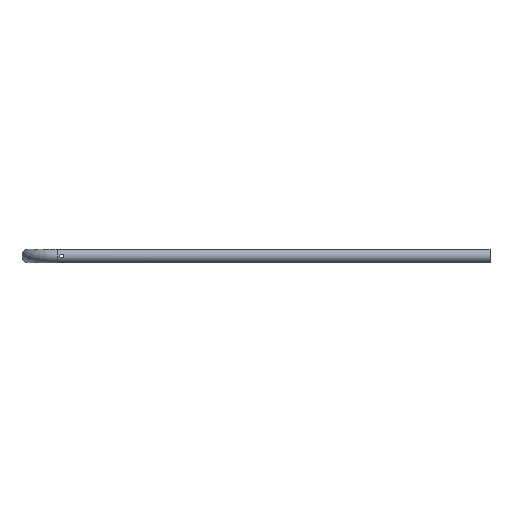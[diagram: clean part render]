
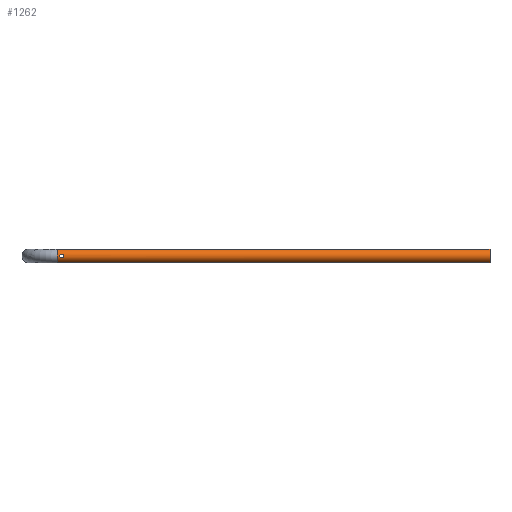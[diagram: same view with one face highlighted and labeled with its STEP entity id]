
A CAD part, left-side view. The second image highlights one B-rep face of the part: STEP entity #1262.
In plain terms, the highlighted cylindrical face has radius 21.2 mm (diameter 42.4 mm), a full revolution.
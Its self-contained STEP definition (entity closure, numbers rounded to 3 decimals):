
#153=CARTESIAN_POINT('',(20.474,1001.2,-5.5));
#154=VERTEX_POINT('',#153);
#155=CARTESIAN_POINT('',(20.474,1001.2,-5.5));
#156=CARTESIAN_POINT('',(20.474,1000.506,-5.5));
#157=CARTESIAN_POINT('',(20.513,999.768,-5.361));
#158=CARTESIAN_POINT('',(20.652,998.414,-4.798));
#159=CARTESIAN_POINT('',(20.749,997.797,-4.376));
#160=CARTESIAN_POINT('',(20.931,996.824,-3.403));
#161=CARTESIAN_POINT('',(21.027,996.402,-2.786));
#162=CARTESIAN_POINT('',(21.163,995.839,-1.432));
#163=CARTESIAN_POINT('',(21.2,995.7,-0.694));
#164=CARTESIAN_POINT('',(21.2,995.7,0.694));
#165=CARTESIAN_POINT('',(21.163,995.839,1.432));
#166=CARTESIAN_POINT('',(21.027,996.402,2.786));
#167=CARTESIAN_POINT('',(20.931,996.824,3.403));
#168=CARTESIAN_POINT('',(20.749,997.797,4.376));
#169=CARTESIAN_POINT('',(20.652,998.414,4.798));
#170=CARTESIAN_POINT('',(20.513,999.768,5.361));
#171=CARTESIAN_POINT('',(20.474,1000.506,5.5));
#172=CARTESIAN_POINT('',(20.474,1001.894,5.5));
#173=CARTESIAN_POINT('',(20.513,1002.632,5.361));
#174=CARTESIAN_POINT('',(20.652,1003.986,4.798));
#175=CARTESIAN_POINT('',(20.749,1004.603,4.376));
#176=CARTESIAN_POINT('',(20.931,1005.576,3.403));
#177=CARTESIAN_POINT('',(21.027,1005.998,2.786));
#178=CARTESIAN_POINT('',(21.163,1006.561,1.432));
#179=CARTESIAN_POINT('',(21.2,1006.7,0.694));
#180=CARTESIAN_POINT('',(21.2,1006.7,-0.694));
#181=CARTESIAN_POINT('',(21.163,1006.561,-1.432));
#182=CARTESIAN_POINT('',(21.027,1005.998,-2.786));
#183=CARTESIAN_POINT('',(20.931,1005.576,-3.403));
#184=CARTESIAN_POINT('',(20.749,1004.603,-4.376));
#185=CARTESIAN_POINT('',(20.652,1003.986,-4.798));
#186=CARTESIAN_POINT('',(20.513,1002.632,-5.361));
#187=CARTESIAN_POINT('',(20.474,1001.894,-5.5));
#188=CARTESIAN_POINT('',(20.474,1001.2,-5.5));
#189=B_SPLINE_CURVE_WITH_KNOTS('',3,(#155,#156,#157,#158,#159,#160,#161,#162,#163,#164,#165,#166,#167,#168,#169,#170,#171,#172,#173,#174,#175,#176,#177,#178,#179,#180,#181,#182,#183,#184,#185,#186,#187,#188),.UNSPECIFIED.,.T.,.U.,(4,2,2,2,2,2,2,2,2,2,2,2,2,2,2,2,4),(0.0,0.208,0.416,0.625,0.833,1.041,1.249,1.457,1.666,1.874,2.082,2.29,2.498,2.707,2.915,3.123,3.331),.UNSPECIFIED.);
#190=EDGE_CURVE('',#154,#154,#189,.T.);
#241=CARTESIAN_POINT('',(-20.474,1001.2,-5.5));
#242=VERTEX_POINT('',#241);
#243=CARTESIAN_POINT('',(-20.474,1001.2,-5.5));
#244=CARTESIAN_POINT('',(-20.474,1001.894,-5.5));
#245=CARTESIAN_POINT('',(-20.513,1002.632,-5.361));
#246=CARTESIAN_POINT('',(-20.652,1003.986,-4.798));
#247=CARTESIAN_POINT('',(-20.749,1004.603,-4.376));
#248=CARTESIAN_POINT('',(-20.931,1005.576,-3.403));
#249=CARTESIAN_POINT('',(-21.027,1005.998,-2.786));
#250=CARTESIAN_POINT('',(-21.163,1006.561,-1.432));
#251=CARTESIAN_POINT('',(-21.2,1006.7,-0.694));
#252=CARTESIAN_POINT('',(-21.2,1006.7,0.694));
#253=CARTESIAN_POINT('',(-21.163,1006.561,1.432));
#254=CARTESIAN_POINT('',(-21.027,1005.998,2.786));
#255=CARTESIAN_POINT('',(-20.931,1005.576,3.403));
#256=CARTESIAN_POINT('',(-20.749,1004.603,4.376));
#257=CARTESIAN_POINT('',(-20.652,1003.986,4.798));
#258=CARTESIAN_POINT('',(-20.513,1002.632,5.361));
#259=CARTESIAN_POINT('',(-20.474,1001.894,5.5));
#260=CARTESIAN_POINT('',(-20.474,1000.506,5.5));
#261=CARTESIAN_POINT('',(-20.513,999.768,5.361));
#262=CARTESIAN_POINT('',(-20.652,998.414,4.798));
#263=CARTESIAN_POINT('',(-20.749,997.797,4.376));
#264=CARTESIAN_POINT('',(-20.931,996.824,3.403));
#265=CARTESIAN_POINT('',(-21.027,996.402,2.786));
#266=CARTESIAN_POINT('',(-21.163,995.839,1.432));
#267=CARTESIAN_POINT('',(-21.2,995.7,0.694));
#268=CARTESIAN_POINT('',(-21.2,995.7,-0.694));
#269=CARTESIAN_POINT('',(-21.163,995.839,-1.432));
#270=CARTESIAN_POINT('',(-21.027,996.402,-2.786));
#271=CARTESIAN_POINT('',(-20.931,996.824,-3.403));
#272=CARTESIAN_POINT('',(-20.749,997.797,-4.376));
#273=CARTESIAN_POINT('',(-20.652,998.414,-4.798));
#274=CARTESIAN_POINT('',(-20.513,999.768,-5.361));
#275=CARTESIAN_POINT('',(-20.474,1000.506,-5.5));
#276=CARTESIAN_POINT('',(-20.474,1001.2,-5.5));
#277=B_SPLINE_CURVE_WITH_KNOTS('',3,(#243,#244,#245,#246,#247,#248,#249,#250,#251,#252,#253,#254,#255,#256,#257,#258,#259,#260,#261,#262,#263,#264,#265,#266,#267,#268,#269,#270,#271,#272,#273,#274,#275,#276),.UNSPECIFIED.,.T.,.U.,(4,2,2,2,2,2,2,2,2,2,2,2,2,2,2,2,4),(0.0,0.208,0.416,0.625,0.833,1.041,1.249,1.457,1.666,1.874,2.082,2.29,2.498,2.707,2.915,3.123,3.331),.UNSPECIFIED.);
#278=EDGE_CURVE('',#242,#242,#277,.T.);
#1225=CARTESIAN_POINT('',(-21.2,1013.5,0.));
#1226=VERTEX_POINT('',#1225);
#1227=CARTESIAN_POINT('',(0.0,1013.5,0.0));
#1228=DIRECTION('',(0.0,-1.0,0.0));
#1229=DIRECTION('',(1.0,0.0,0.0));
#1230=AXIS2_PLACEMENT_3D('',#1227,#1228,#1229);
#1231=CIRCLE('',#1230,21.2);
#1232=EDGE_CURVE('',#1226,#1226,#1231,.T.);
#1237=CARTESIAN_POINT('',(0.0,-300.,0.0));
#1238=DIRECTION('',(0.0,1.0,0.0));
#1239=DIRECTION('',(1.0,0.0,0.0));
#1240=AXIS2_PLACEMENT_3D('',#1237,#1238,#1239);
#1241=CYLINDRICAL_SURFACE('',#1240,21.2);
#1242=ORIENTED_EDGE('',*,*,#1232,.T.);
#1243=EDGE_LOOP('',(#1242));
#1244=FACE_OUTER_BOUND('',#1243,.T.);
#1245=ORIENTED_EDGE('',*,*,#190,.T.);
#1246=EDGE_LOOP('',(#1245));
#1247=FACE_BOUND('',#1246,.T.);
#1248=ORIENTED_EDGE('',*,*,#278,.T.);
#1249=EDGE_LOOP('',(#1248));
#1250=FACE_BOUND('',#1249,.T.);
#1251=CARTESIAN_POINT('',(-21.2,-300.,0.));
#1252=VERTEX_POINT('',#1251);
#1253=CARTESIAN_POINT('',(0.0,-300.,0.0));
#1254=DIRECTION('',(0.0,-1.0,0.0));
#1255=DIRECTION('',(1.0,0.0,0.0));
#1256=AXIS2_PLACEMENT_3D('',#1253,#1254,#1255);
#1257=CIRCLE('',#1256,21.2);
#1258=EDGE_CURVE('',#1252,#1252,#1257,.T.);
#1259=ORIENTED_EDGE('',*,*,#1258,.F.);
#1260=EDGE_LOOP('',(#1259));
#1261=FACE_BOUND('',#1260,.T.);
#1262=ADVANCED_FACE('',(#1244,#1247,#1250,#1261),#1241,.T.);
